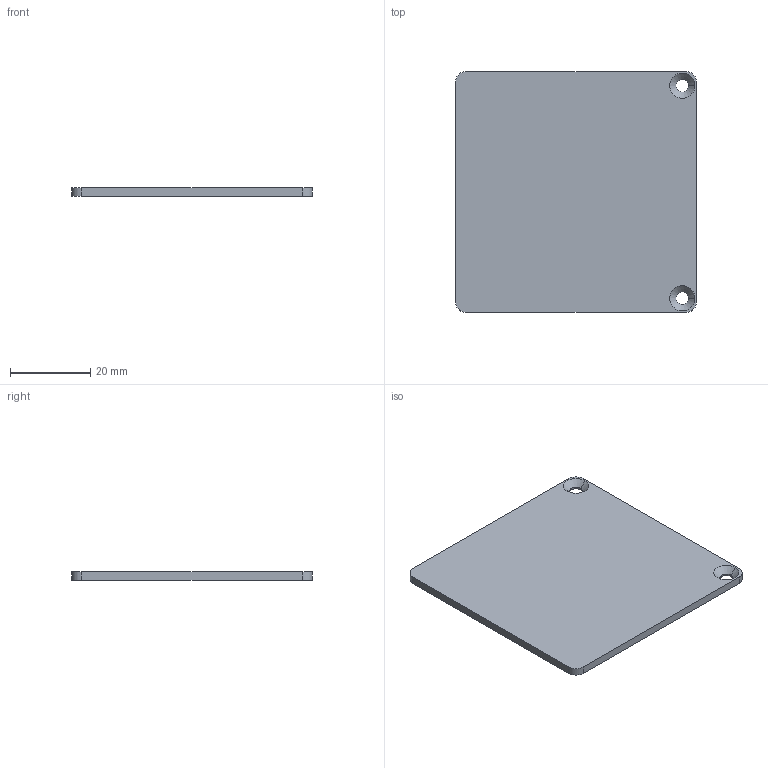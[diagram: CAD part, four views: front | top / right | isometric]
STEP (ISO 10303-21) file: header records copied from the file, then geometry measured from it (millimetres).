
FILE_DESCRIPTION (( 'STEP AP214' ), '1' );
FILE_NAME ('084.201.079.STEP', '2021-02-05T10:18:15', ( '' ), ( '' ), 'SwSTEP 2.0', 'SolidWorks 2018', '' );
FILE_SCHEMA (( 'AUTOMOTIVE_DESIGN' ));
Length unit declared in the file: millimetre
Products named in the file (1): 084.201.079
Bounding box: 60 x 60 x 2 mm (x, y, z)
Volume: 7125.1 mm3; surface area: 7656.7 mm2
Topology: 1 solids, 1 shells, 18 faces, 44 edges, 28 vertices
Faces by surface type: cylinder 8, plane 6, cone 4
Entity records: 578 total; most frequent: DIRECTION 102, CARTESIAN_POINT 91, ORIENTED_EDGE 88, EDGE_CURVE 44, AXIS2_PLACEMENT_3D 39, VERTEX_POINT 28, LINE 24, VECTOR 24
